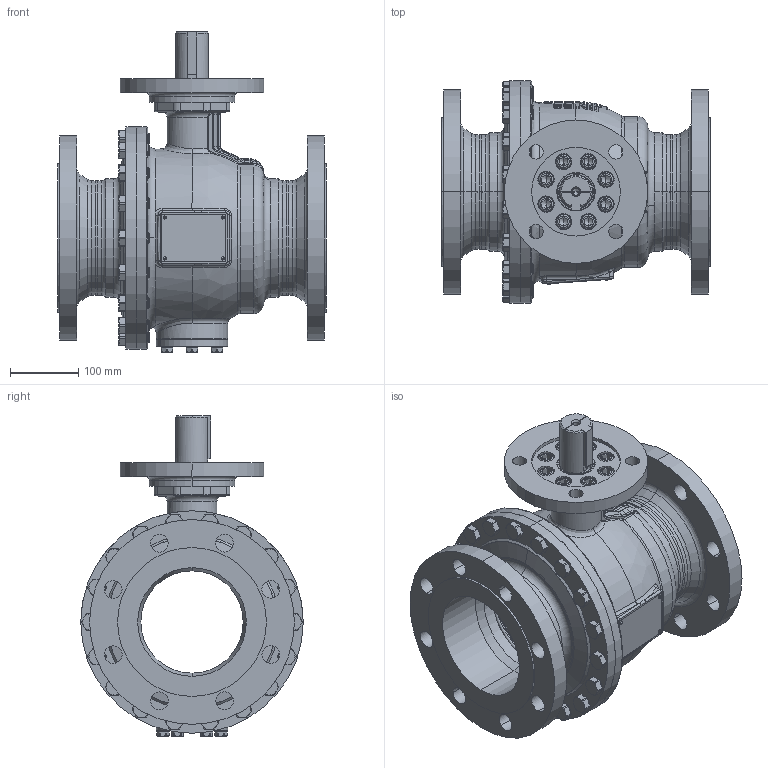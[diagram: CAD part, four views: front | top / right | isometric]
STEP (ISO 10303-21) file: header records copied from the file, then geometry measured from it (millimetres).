
FILE_DESCRIPTION((''),'2;1');
FILE_NAME('KHI-F_150_PN025-F16-P_SW0001','2026-02-05T11:44:57',('fischerkl'),('KLINGER'),'CREO PARAMETRIC BY PTC INC, 2023014','CREO PARAMETRIC BY PTC INC, 2023014','');
FILE_SCHEMA(('CONFIG_CONTROL_DESIGN'));
Products named in the file (1): KHI-F_150_PN025-F16-P_SW0001
Bounding box: 394 x 326 x 469.2 mm (x, y, z)
Volume: 8858753.6 mm3; surface area: 1617226.4 mm2
Topology: 1 solids, 4 shells, 3723 faces, 9532 edges, 5947 vertices
Faces by surface type: plane 2284, cylinder 676, cone 362, torus 260, bspline 113, sphere 28
Entity records: 144408 total; most frequent: CARTESIAN_POINT 56405, ORIENTED_EDGE 19012, DIRECTION 17381, EDGE_CURVE 9506, AXIS2_PLACEMENT_3D 6125, VERTEX_POINT 5947, VECTOR 5131, LINE 5131
